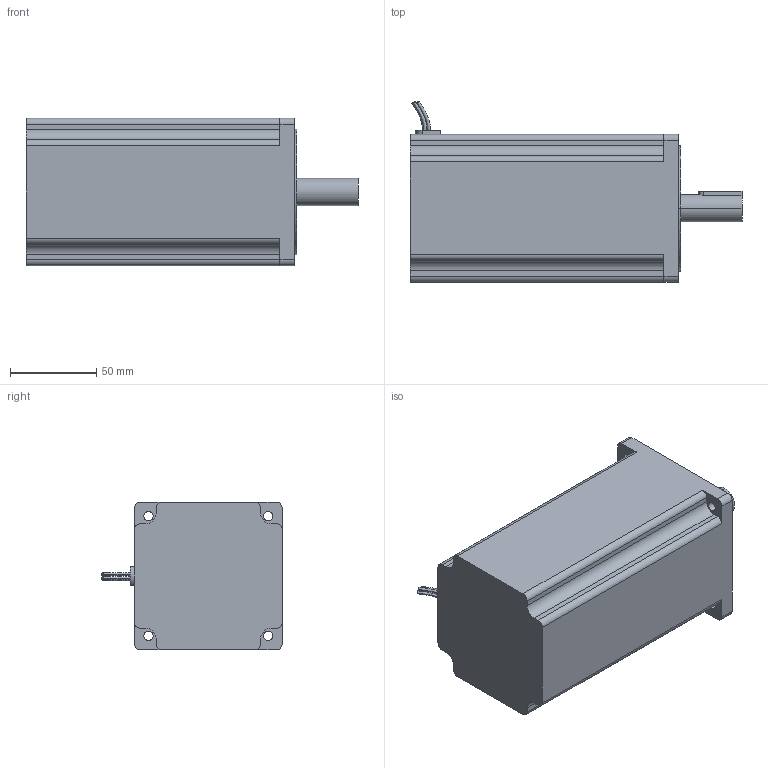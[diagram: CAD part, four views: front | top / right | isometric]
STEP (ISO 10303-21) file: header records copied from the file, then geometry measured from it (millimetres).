
FILE_DESCRIPTION (( 'STEP AP203' ), '1' );
FILE_NAME ('2S86Q-051F6.STEP', '2019-03-11T03:35:28', ( '' ), ( '' ), 'SwSTEP 2.0', 'SolidWorks 2008', '' );
FILE_SCHEMA (( 'CONFIG_CONTROL_DESIGN' ));
Length unit declared in the file: millimetre
Products named in the file (1): 2S86Q-051F6
Bounding box: 193 x 104.91 x 85.85 mm (x, y, z)
Surface area: 68199 mm2 (no closed solid volume)
Topology: 0 solids, 5 shells, 73 faces, 189 edges, 126 vertices
Faces by surface type: cylinder 33, plane 32, bspline 8
Entity records: 2883 total; most frequent: CARTESIAN_POINT 979, DIRECTION 392, ORIENTED_EDGE 370, EDGE_CURVE 189, AXIS2_PLACEMENT_3D 147, VERTEX_POINT 126, VECTOR 98, LINE 98
